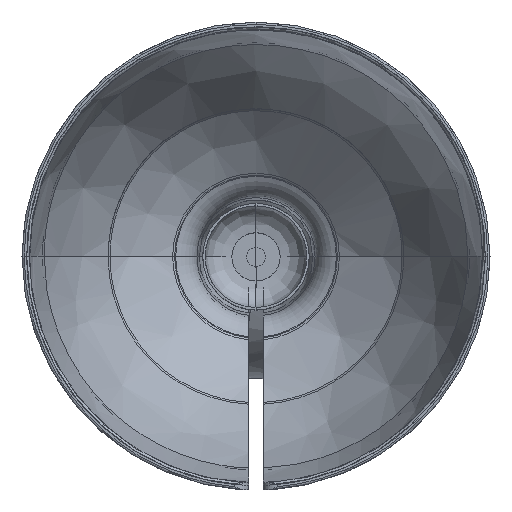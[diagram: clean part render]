
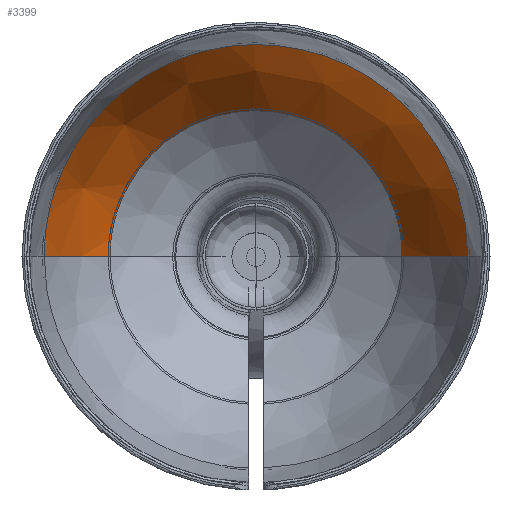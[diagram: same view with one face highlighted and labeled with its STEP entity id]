
A CAD part, top view. The second image highlights one B-rep face of the part: STEP entity #3399.
In plain terms, the highlighted free-form (B-spline) face has degree [2, 2] with [3, 5] control points.
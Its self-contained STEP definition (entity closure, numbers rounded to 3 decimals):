
#38=(
BOUNDED_CURVE()
B_SPLINE_CURVE(2,(#7394,#7395,#7396),.UNSPECIFIED.,.F.,.F.)
B_SPLINE_CURVE_WITH_KNOTS((3,3),(-0.669,-0.255),
 .UNSPECIFIED.)
CURVE()
GEOMETRIC_REPRESENTATION_ITEM()
RATIONAL_B_SPLINE_CURVE((1.,0.979,1.))
REPRESENTATION_ITEM('')
);
#39=(
BOUNDED_CURVE()
B_SPLINE_CURVE(2,(#7430,#7431,#7432),.UNSPECIFIED.,.F.,.F.)
B_SPLINE_CURVE_WITH_KNOTS((3,3),(0.255,0.669),
 .UNSPECIFIED.)
CURVE()
GEOMETRIC_REPRESENTATION_ITEM()
RATIONAL_B_SPLINE_CURVE((1.,0.979,1.))
REPRESENTATION_ITEM('')
);
#148=B_SPLINE_CURVE_WITH_KNOTS('',3,(#5540,#5541,#5542,#5543,#5544,#5545,
#5546,#5547,#5548,#5549,#5550,#5551),.UNSPECIFIED.,.F.,.F.,(4,1,1,1,1,1,
1,1,1,4),(0.,0.111,0.222,0.333,0.444,
0.556,0.667,0.778,0.889,
1.),.UNSPECIFIED.);
#205=B_SPLINE_CURVE_WITH_KNOTS('',3,(#7375,#7376,#7377,#7378,#7379,#7380,
#7381,#7382,#7383,#7384),.UNSPECIFIED.,.F.,.F.,(4,1,1,1,1,1,1,4),(0.,0.143,
0.286,0.429,0.571,0.714,
0.857,1.),.UNSPECIFIED.);
#355=(
BOUNDED_SURFACE()
B_SPLINE_SURFACE(2,2,((#7457,#7458,#7459,#7460,#7461),(#7462,#7463,#7464,
#7465,#7466),(#7467,#7468,#7469,#7470,#7471)),.UNSPECIFIED.,.F.,.F.,.F.)
B_SPLINE_SURFACE_WITH_KNOTS((3,3),(3,2,3),(-0.669,-0.255),
(0.,1.571,3.142),.UNSPECIFIED.)
GEOMETRIC_REPRESENTATION_ITEM()
RATIONAL_B_SPLINE_SURFACE(((1.,0.707,1.,0.707,1.),
(0.979,0.692,0.979,0.692,
0.979),(1.,0.707,1.,0.707,1.)))
REPRESENTATION_ITEM('')
SURFACE()
);
#598=FACE_OUTER_BOUND('',#826,.T.);
#826=EDGE_LOOP('',(#2785,#2786,#2787,#2788));
#1470=VERTEX_POINT('',#5439);
#1473=VERTEX_POINT('',#5486);
#1533=VERTEX_POINT('',#7303);
#1535=VERTEX_POINT('',#7336);
#1873=EDGE_CURVE('',#1473,#1470,#148,.T.);
#1976=EDGE_CURVE('',#1535,#1533,#205,.T.);
#1977=EDGE_CURVE('',#1533,#1473,#38,.T.);
#1979=EDGE_CURVE('',#1470,#1535,#39,.T.);
#2785=ORIENTED_EDGE('',*,*,#1976,.T.);
#2786=ORIENTED_EDGE('',*,*,#1977,.T.);
#2787=ORIENTED_EDGE('',*,*,#1873,.T.);
#2788=ORIENTED_EDGE('',*,*,#1979,.T.);
#3399=ADVANCED_FACE('',(#598),#355,.T.);
#5439=CARTESIAN_POINT('',(-89.592,0.,145.107));
#5486=CARTESIAN_POINT('',(89.592,0.,145.107));
#5540=CARTESIAN_POINT('Ctrl Pts',(89.592,0.,145.107));
#5541=CARTESIAN_POINT('Ctrl Pts',(89.667,10.451,145.107));
#5542=CARTESIAN_POINT('Ctrl Pts',(85.882,31.258,145.107));
#5543=CARTESIAN_POINT('Ctrl Pts',(70.049,58.774,145.107));
#5544=CARTESIAN_POINT('Ctrl Pts',(45.713,79.18,145.107));
#5545=CARTESIAN_POINT('Ctrl Pts',(15.878,90.041,145.107));
#5546=CARTESIAN_POINT('Ctrl Pts',(-15.878,90.041,145.107));
#5547=CARTESIAN_POINT('Ctrl Pts',(-45.713,79.18,145.107));
#5548=CARTESIAN_POINT('Ctrl Pts',(-70.049,58.774,145.107));
#5549=CARTESIAN_POINT('Ctrl Pts',(-85.882,31.258,145.107));
#5550=CARTESIAN_POINT('Ctrl Pts',(-89.667,10.451,145.107));
#5551=CARTESIAN_POINT('Ctrl Pts',(-89.592,0.,
145.107));
#7303=CARTESIAN_POINT('',(61.734,0.,89.129));
#7336=CARTESIAN_POINT('',(-61.734,0.,89.129));
#7375=CARTESIAN_POINT('Ctrl Pts',(-61.734,0.,
89.129));
#7376=CARTESIAN_POINT('Ctrl Pts',(-61.869,9.298,89.129));
#7377=CARTESIAN_POINT('Ctrl Pts',(-57.456,27.67,89.129));
#7378=CARTESIAN_POINT('Ctrl Pts',(-39.822,49.921,89.129));
#7379=CARTESIAN_POINT('Ctrl Pts',(-14.2,62.239,89.129));
#7380=CARTESIAN_POINT('Ctrl Pts',(14.2,62.239,89.129));
#7381=CARTESIAN_POINT('Ctrl Pts',(39.822,49.921,89.129));
#7382=CARTESIAN_POINT('Ctrl Pts',(57.456,27.67,89.129));
#7383=CARTESIAN_POINT('Ctrl Pts',(61.869,9.298,89.129));
#7384=CARTESIAN_POINT('Ctrl Pts',(61.734,0.,
89.129));
#7394=CARTESIAN_POINT('Ctrl Pts',(61.734,0.,
89.129));
#7395=CARTESIAN_POINT('Ctrl Pts',(81.537,0.,
114.194));
#7396=CARTESIAN_POINT('Ctrl Pts',(89.592,0.,
145.107));
#7430=CARTESIAN_POINT('Ctrl Pts',(-89.592,0.,
145.107));
#7431=CARTESIAN_POINT('Ctrl Pts',(-81.537,0.,
114.194));
#7432=CARTESIAN_POINT('Ctrl Pts',(-61.734,0.,
89.129));
#7457=CARTESIAN_POINT('Ctrl Pts',(61.722,0.,
89.113));
#7458=CARTESIAN_POINT('Ctrl Pts',(61.722,61.722,89.113));
#7459=CARTESIAN_POINT('Ctrl Pts',(0.,61.722,
89.113));
#7460=CARTESIAN_POINT('Ctrl Pts',(-61.722,61.722,89.113));
#7461=CARTESIAN_POINT('Ctrl Pts',(-61.722,0.,
89.113));
#7462=CARTESIAN_POINT('Ctrl Pts',(81.541,0.,
114.192));
#7463=CARTESIAN_POINT('Ctrl Pts',(81.541,81.541,114.192));
#7464=CARTESIAN_POINT('Ctrl Pts',(0.,81.541,
114.192));
#7465=CARTESIAN_POINT('Ctrl Pts',(-81.541,81.541,114.192));
#7466=CARTESIAN_POINT('Ctrl Pts',(-81.541,0.,
114.192));
#7467=CARTESIAN_POINT('Ctrl Pts',(89.597,0.,
145.125));
#7468=CARTESIAN_POINT('Ctrl Pts',(89.597,89.597,145.125));
#7469=CARTESIAN_POINT('Ctrl Pts',(0.,89.597,
145.125));
#7470=CARTESIAN_POINT('Ctrl Pts',(-89.597,89.597,145.125));
#7471=CARTESIAN_POINT('Ctrl Pts',(-89.597,0.,
145.125));
